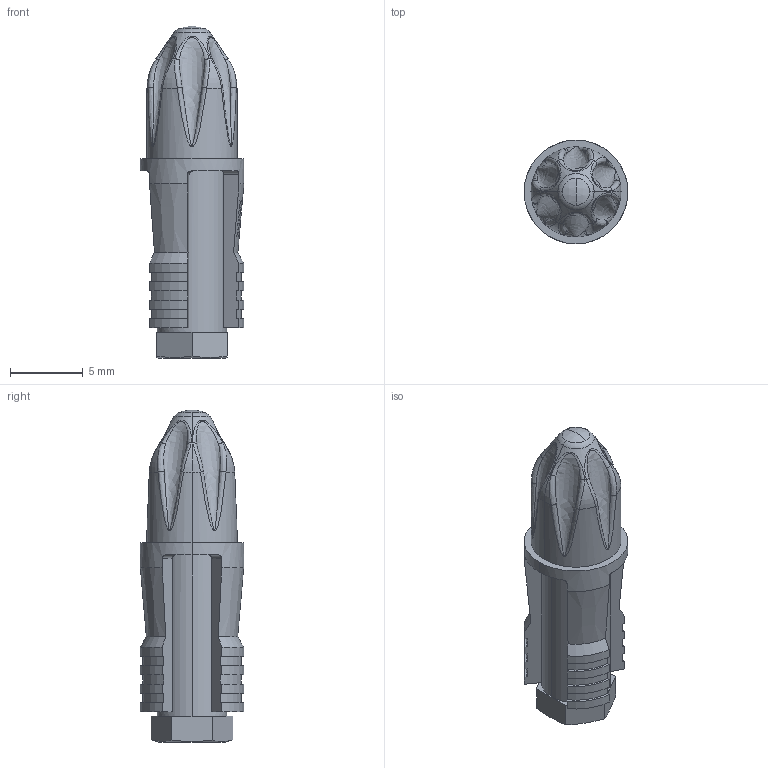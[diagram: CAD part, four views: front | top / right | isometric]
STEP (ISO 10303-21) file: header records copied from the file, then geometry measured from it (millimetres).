
FILE_DESCRIPTION (( 'STEP AP214' ), '1' );
FILE_NAME ('3DFSLA2810000A.STEP', '2021-04-22T15:26:22', ( '' ), ( '' ), 'SwSTEP 2.0', 'SolidWorks 2019', '' );
FILE_SCHEMA (( 'AUTOMOTIVE_DESIGN' ));
Length unit declared in the file: inch
Products named in the file (1): 3DFSLA2810000A
Bounding box: 7.14 x 7.14 x 22.86 mm (x, y, z)
Volume: 533.9 mm3; surface area: 572.8 mm2
Topology: 1 solids, 1 shells, 398 faces, 1101 edges, 724 vertices
Faces by surface type: bspline 258, cone 53, plane 40, cylinder 35, torus 10, sphere 2
Entity records: 22768 total; most frequent: CARTESIAN_POINT 10713, ORIENTED_EDGE 2202, EDGE_CURVE 1101, B_SPLINE_CURVE_WITH_KNOTS 804, VERTEX_POINT 724, DIRECTION 705, EDGE_LOOP 417, ADVANCED_FACE 398
